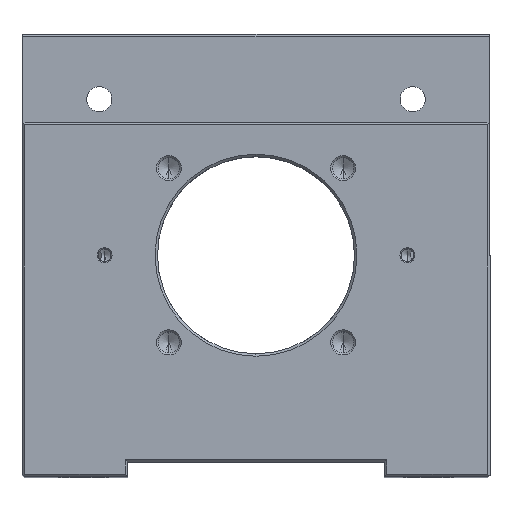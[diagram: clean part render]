
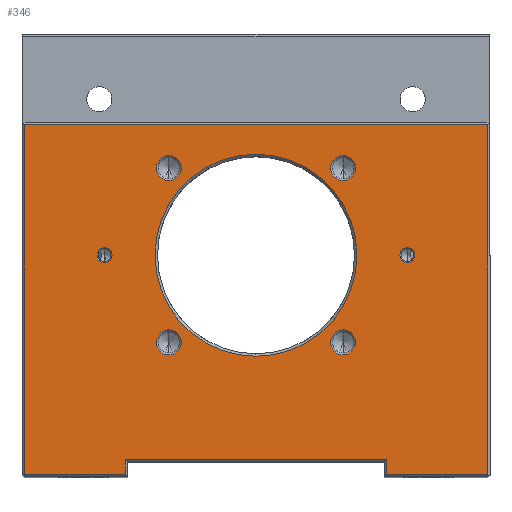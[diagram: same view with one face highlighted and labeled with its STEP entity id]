
A CAD part, top view. The second image highlights one B-rep face of the part: STEP entity #346.
In plain terms, the highlighted planar face has unit normal (0, 0, 1).
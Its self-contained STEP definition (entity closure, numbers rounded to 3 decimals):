
#101=PLANE('',#3490);
#168=FACE_BOUND('',#822,.T.);
#169=FACE_BOUND('',#823,.T.);
#170=FACE_BOUND('',#824,.T.);
#171=FACE_BOUND('',#825,.T.);
#172=FACE_BOUND('',#826,.T.);
#173=FACE_BOUND('',#827,.T.);
#174=FACE_BOUND('',#828,.T.);
#175=FACE_BOUND('',#829,.T.);
#346=ADVANCED_FACE('',(#168,#169,#170,#171,#172,#173,#174,#175),#101,.T.);
#822=EDGE_LOOP('',(#1833,#1834));
#823=EDGE_LOOP('',(#1835,#1836));
#824=EDGE_LOOP('',(#1837,#1838));
#825=EDGE_LOOP('',(#1839,#1840));
#826=EDGE_LOOP('',(#1841,#1842));
#827=EDGE_LOOP('',(#1843,#1844));
#828=EDGE_LOOP('',(#1845,#1846));
#829=EDGE_LOOP('',(#1847,#1848,#1849,#1850,#1851,#1852,#1853,#1854));
#1134=LINE('',#5400,#1393);
#1135=LINE('',#5403,#1394);
#1136=LINE('',#5405,#1395);
#1137=LINE('',#5407,#1396);
#1138=LINE('',#5409,#1397);
#1139=LINE('',#5411,#1398);
#1140=LINE('',#5413,#1399);
#1141=LINE('',#5415,#1400);
#1393=VECTOR('',#4240,1.);
#1394=VECTOR('',#4241,1.);
#1395=VECTOR('',#4242,1.);
#1396=VECTOR('',#4243,1.);
#1397=VECTOR('',#4244,1.);
#1398=VECTOR('',#4245,1.);
#1399=VECTOR('',#4246,1.);
#1400=VECTOR('',#4247,1.);
#1833=ORIENTED_EDGE('',*,*,#2660,.T.);
#1834=ORIENTED_EDGE('',*,*,#2951,.T.);
#1835=ORIENTED_EDGE('',*,*,#2952,.F.);
#1836=ORIENTED_EDGE('',*,*,#2712,.F.);
#1837=ORIENTED_EDGE('',*,*,#2953,.F.);
#1838=ORIENTED_EDGE('',*,*,#2721,.F.);
#1839=ORIENTED_EDGE('',*,*,#2954,.F.);
#1840=ORIENTED_EDGE('',*,*,#2733,.F.);
#1841=ORIENTED_EDGE('',*,*,#2955,.F.);
#1842=ORIENTED_EDGE('',*,*,#2742,.F.);
#1843=ORIENTED_EDGE('',*,*,#2956,.F.);
#1844=ORIENTED_EDGE('',*,*,#2751,.F.);
#1845=ORIENTED_EDGE('',*,*,#2957,.F.);
#1846=ORIENTED_EDGE('',*,*,#2760,.F.);
#1847=ORIENTED_EDGE('',*,*,#2958,.T.);
#1848=ORIENTED_EDGE('',*,*,#2959,.T.);
#1849=ORIENTED_EDGE('',*,*,#2960,.T.);
#1850=ORIENTED_EDGE('',*,*,#2961,.T.);
#1851=ORIENTED_EDGE('',*,*,#2962,.T.);
#1852=ORIENTED_EDGE('',*,*,#2963,.T.);
#1853=ORIENTED_EDGE('',*,*,#2964,.T.);
#1854=ORIENTED_EDGE('',*,*,#2965,.T.);
#2385=VERTEX_POINT('',#4699);
#2386=VERTEX_POINT('',#4701);
#2437=VERTEX_POINT('',#4816);
#2438=VERTEX_POINT('',#4818);
#2444=VERTEX_POINT('',#4835);
#2445=VERTEX_POINT('',#4837);
#2453=VERTEX_POINT('',#4898);
#2454=VERTEX_POINT('',#4900);
#2460=VERTEX_POINT('',#4917);
#2461=VERTEX_POINT('',#4919);
#2467=VERTEX_POINT('',#4936);
#2468=VERTEX_POINT('',#4938);
#2474=VERTEX_POINT('',#4955);
#2475=VERTEX_POINT('',#4957);
#2613=VERTEX_POINT('',#5401);
#2614=VERTEX_POINT('',#5402);
#2615=VERTEX_POINT('',#5404);
#2616=VERTEX_POINT('',#5406);
#2617=VERTEX_POINT('',#5408);
#2618=VERTEX_POINT('',#5410);
#2619=VERTEX_POINT('',#5412);
#2620=VERTEX_POINT('',#5414);
#2660=EDGE_CURVE('',#2386,#2385,#3112,.T.);
#2712=EDGE_CURVE('',#2437,#2438,#3138,.T.);
#2721=EDGE_CURVE('',#2444,#2445,#3141,.T.);
#2733=EDGE_CURVE('',#2453,#2454,#3145,.T.);
#2742=EDGE_CURVE('',#2460,#2461,#3148,.T.);
#2751=EDGE_CURVE('',#2467,#2468,#3151,.T.);
#2760=EDGE_CURVE('',#2474,#2475,#3154,.T.);
#2951=EDGE_CURVE('',#2385,#2386,#3222,.T.);
#2952=EDGE_CURVE('',#2438,#2437,#3223,.T.);
#2953=EDGE_CURVE('',#2445,#2444,#3224,.T.);
#2954=EDGE_CURVE('',#2454,#2453,#3225,.T.);
#2955=EDGE_CURVE('',#2461,#2460,#3226,.T.);
#2956=EDGE_CURVE('',#2468,#2467,#3227,.T.);
#2957=EDGE_CURVE('',#2475,#2474,#3228,.T.);
#2958=EDGE_CURVE('',#2613,#2614,#1134,.T.);
#2959=EDGE_CURVE('',#2614,#2615,#1135,.T.);
#2960=EDGE_CURVE('',#2615,#2616,#1136,.T.);
#2961=EDGE_CURVE('',#2616,#2617,#1137,.T.);
#2962=EDGE_CURVE('',#2617,#2618,#1138,.T.);
#2963=EDGE_CURVE('',#2618,#2619,#1139,.T.);
#2964=EDGE_CURVE('',#2619,#2620,#1140,.T.);
#2965=EDGE_CURVE('',#2620,#2613,#1141,.T.);
#3112=CIRCLE('',#3297,20.5);
#3138=CIRCLE('',#3336,1.525);
#3141=CIRCLE('',#3342,1.525);
#3145=CIRCLE('',#3349,2.525);
#3148=CIRCLE('',#3355,2.525);
#3151=CIRCLE('',#3361,2.525);
#3154=CIRCLE('',#3367,2.525);
#3222=CIRCLE('',#3483,20.5);
#3223=CIRCLE('',#3484,1.525);
#3224=CIRCLE('',#3485,1.525);
#3225=CIRCLE('',#3486,2.525);
#3226=CIRCLE('',#3487,2.525);
#3227=CIRCLE('',#3488,2.525);
#3228=CIRCLE('',#3489,2.525);
#3297=AXIS2_PLACEMENT_3D('',#4700,#3680,#3681);
#3336=AXIS2_PLACEMENT_3D('',#4817,#3784,#3785);
#3342=AXIS2_PLACEMENT_3D('',#4836,#3802,#3803);
#3349=AXIS2_PLACEMENT_3D('',#4899,#3822,#3823);
#3355=AXIS2_PLACEMENT_3D('',#4918,#3840,#3841);
#3361=AXIS2_PLACEMENT_3D('',#4937,#3858,#3859);
#3367=AXIS2_PLACEMENT_3D('',#4956,#3876,#3877);
#3483=AXIS2_PLACEMENT_3D('',#5393,#4226,#4227);
#3484=AXIS2_PLACEMENT_3D('',#5394,#4228,#4229);
#3485=AXIS2_PLACEMENT_3D('',#5395,#4230,#4231);
#3486=AXIS2_PLACEMENT_3D('',#5396,#4232,#4233);
#3487=AXIS2_PLACEMENT_3D('',#5397,#4234,#4235);
#3488=AXIS2_PLACEMENT_3D('',#5398,#4236,#4237);
#3489=AXIS2_PLACEMENT_3D('',#5399,#4238,#4239);
#3490=AXIS2_PLACEMENT_3D('',#5416,#4248,#4249);
#3680=DIRECTION('',(0.,0.,-1.));
#3681=DIRECTION('',(0.,-1.,0.));
#3784=DIRECTION('',(0.,0.,1.));
#3785=DIRECTION('',(0.,-1.,0.));
#3802=DIRECTION('',(0.,0.,1.));
#3803=DIRECTION('',(0.,-1.,0.));
#3822=DIRECTION('',(0.,0.,1.));
#3823=DIRECTION('',(0.,-1.,0.));
#3840=DIRECTION('',(0.,0.,1.));
#3841=DIRECTION('',(0.,-1.,0.));
#3858=DIRECTION('',(0.,0.,1.));
#3859=DIRECTION('',(0.,-1.,0.));
#3876=DIRECTION('',(0.,0.,1.));
#3877=DIRECTION('',(0.,-1.,0.));
#4226=DIRECTION('',(0.,0.,-1.));
#4227=DIRECTION('',(0.,-1.,0.));
#4228=DIRECTION('',(0.,0.,1.));
#4229=DIRECTION('',(0.,-1.,0.));
#4230=DIRECTION('',(0.,0.,1.));
#4231=DIRECTION('',(0.,-1.,0.));
#4232=DIRECTION('',(0.,0.,1.));
#4233=DIRECTION('',(0.,-1.,0.));
#4234=DIRECTION('',(0.,0.,1.));
#4235=DIRECTION('',(0.,-1.,0.));
#4236=DIRECTION('',(0.,0.,1.));
#4237=DIRECTION('',(0.,-1.,0.));
#4238=DIRECTION('',(0.,0.,1.));
#4239=DIRECTION('',(0.,-1.,0.));
#4240=DIRECTION('',(0.,1.,0.));
#4241=DIRECTION('',(-1.,0.,0.));
#4242=DIRECTION('',(0.,-1.,0.));
#4243=DIRECTION('',(1.,0.,0.));
#4244=DIRECTION('',(0.,1.,0.));
#4245=DIRECTION('',(1.,0.,0.));
#4246=DIRECTION('',(0.,-1.,0.));
#4247=DIRECTION('',(1.,0.,0.));
#4248=DIRECTION('',(0.,0.,1.));
#4249=DIRECTION('',(0.,1.,0.));
#4699=CARTESIAN_POINT('',(0.,20.5,48.5));
#4700=CARTESIAN_POINT('',(0.,0.,48.5));
#4701=CARTESIAN_POINT('',(0.,-20.5,48.5));
#4816=CARTESIAN_POINT('',(30.75,1.525,48.5));
#4817=CARTESIAN_POINT('',(30.75,0.,48.5));
#4818=CARTESIAN_POINT('',(30.75,-1.525,48.5));
#4835=CARTESIAN_POINT('',(-30.75,1.525,48.5));
#4836=CARTESIAN_POINT('',(-30.75,0.,48.5));
#4837=CARTESIAN_POINT('',(-30.75,-1.525,48.5));
#4898=CARTESIAN_POINT('',(17.678,20.203,48.5));
#4899=CARTESIAN_POINT('',(17.678,17.678,48.5));
#4900=CARTESIAN_POINT('',(17.678,15.153,48.5));
#4917=CARTESIAN_POINT('',(17.678,-15.153,48.5));
#4918=CARTESIAN_POINT('',(17.678,-17.678,48.5));
#4919=CARTESIAN_POINT('',(17.678,-20.203,48.5));
#4936=CARTESIAN_POINT('',(-17.678,-15.153,48.5));
#4937=CARTESIAN_POINT('',(-17.678,-17.678,48.5));
#4938=CARTESIAN_POINT('',(-17.678,-20.203,48.5));
#4955=CARTESIAN_POINT('',(-17.678,20.203,48.5));
#4956=CARTESIAN_POINT('',(-17.678,17.678,48.5));
#4957=CARTESIAN_POINT('',(-17.678,15.153,48.5));
#5393=CARTESIAN_POINT('',(0.,0.,48.5));
#5394=CARTESIAN_POINT('',(30.75,0.,48.5));
#5395=CARTESIAN_POINT('',(-30.75,0.,48.5));
#5396=CARTESIAN_POINT('',(17.678,17.678,48.5));
#5397=CARTESIAN_POINT('',(17.678,-17.678,48.5));
#5398=CARTESIAN_POINT('',(-17.678,-17.678,48.5));
#5399=CARTESIAN_POINT('',(-17.678,17.678,48.5));
#5400=CARTESIAN_POINT('',(47.,0.,48.5));
#5401=CARTESIAN_POINT('',(47.,-44.5,48.5));
#5402=CARTESIAN_POINT('',(47.,26.5,48.5));
#5403=CARTESIAN_POINT('',(-46.8,26.5,48.5));
#5404=CARTESIAN_POINT('',(-47.,26.5,48.5));
#5405=CARTESIAN_POINT('',(-47.,-44.5,48.5));
#5406=CARTESIAN_POINT('',(-47.,-44.5,48.5));
#5407=CARTESIAN_POINT('',(-26.,-44.5,48.5));
#5408=CARTESIAN_POINT('',(-26.5,-44.5,48.5));
#5409=CARTESIAN_POINT('',(-26.5,-42.,48.5));
#5410=CARTESIAN_POINT('',(-26.5,-41.5,48.5));
#5411=CARTESIAN_POINT('',(26.,-41.5,48.5));
#5412=CARTESIAN_POINT('',(26.5,-41.5,48.5));
#5413=CARTESIAN_POINT('',(26.5,-45.,48.5));
#5414=CARTESIAN_POINT('',(26.5,-44.5,48.5));
#5415=CARTESIAN_POINT('',(47.,-44.5,48.5));
#5416=CARTESIAN_POINT('',(0.,0.,48.5));
